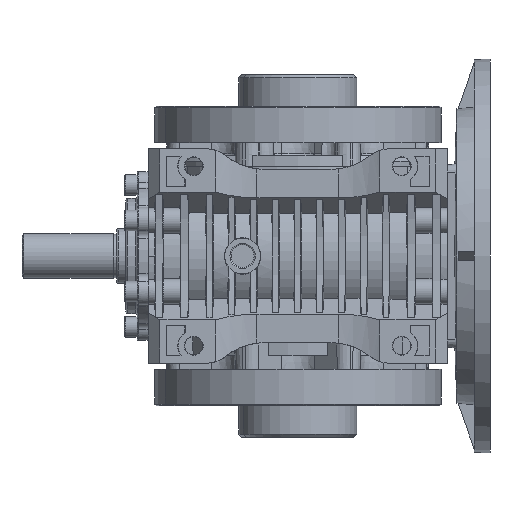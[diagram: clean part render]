
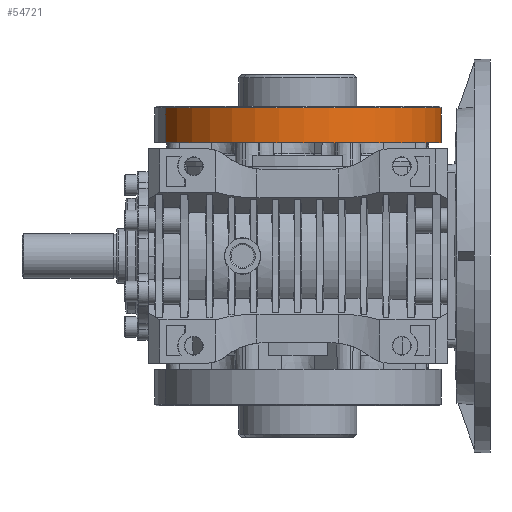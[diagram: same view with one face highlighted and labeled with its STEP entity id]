
A CAD part, front view. The second image highlights one B-rep face of the part: STEP entity #54721.
In plain terms, the highlighted cylindrical face has radius 91 mm (diameter 182 mm), a partial arc.
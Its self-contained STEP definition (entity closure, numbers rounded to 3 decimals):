
#792 = CARTESIAN_POINT ( 'NONE',  ( 84.073, 34.824, 72. ) ) ;
#3786 = CARTESIAN_POINT ( 'NONE',  ( -84.073, -34.824, 94. ) ) ;
#10967 = EDGE_CURVE ( 'NONE', #12306, #61198, #73562, .T. ) ;
#11295 = VECTOR ( 'NONE', #81882, 1000. ) ;
#12306 = VERTEX_POINT ( 'NONE', #99461 ) ;
#12748 = VECTOR ( 'NONE', #61504, 1000. ) ;
#16022 = CARTESIAN_POINT ( 'NONE',  ( 0., 0., 94. ) ) ;
#20586 = VERTEX_POINT ( 'NONE', #50229 ) ;
#22683 = AXIS2_PLACEMENT_3D ( 'NONE', #27985, #58640, #96871 ) ;
#27985 = CARTESIAN_POINT ( 'NONE',  ( 0., 0., 72. ) ) ;
#39284 = CYLINDRICAL_SURFACE ( 'NONE', #59530, 91. ) ;
#40122 = EDGE_LOOP ( 'NONE', ( #83838, #80472, #80977, #77805 ) ) ;
#50229 = CARTESIAN_POINT ( 'NONE',  ( -84.073, -34.824, 72. ) ) ;
#53875 = DIRECTION ( 'NONE',  ( -0.924, -0.383, 0. ) ) ;
#54209 = DIRECTION ( 'NONE',  ( 0., 0., -1. ) ) ;
#54721 = ADVANCED_FACE ( 'NONE', ( #98167 ), #39284, .T. ) ;
#56431 = CIRCLE ( 'NONE', #22683, 91. ) ;
#58640 = DIRECTION ( 'NONE',  ( 0., 0., -1. ) ) ;
#59530 = AXIS2_PLACEMENT_3D ( 'NONE', #84557, #99134, #53875 ) ;
#60558 = LINE ( 'NONE', #792, #11295 ) ;
#61198 = VERTEX_POINT ( 'NONE', #3786 ) ;
#61504 = DIRECTION ( 'NONE',  ( 0., 0., -1. ) ) ;
#62610 = EDGE_CURVE ( 'NONE', #61198, #20586, #77610, .T. ) ;
#70274 = DIRECTION ( 'NONE',  ( -0.924, -0.383, 0. ) ) ;
#71195 = VERTEX_POINT ( 'NONE', #99303 ) ;
#73562 = CIRCLE ( 'NONE', #99285, 91. ) ;
#77610 = LINE ( 'NONE', #99232, #12748 ) ;
#77805 = ORIENTED_EDGE ( 'NONE', *, *, #94092, .F. ) ;
#80472 = ORIENTED_EDGE ( 'NONE', *, *, #10967, .T. ) ;
#80977 = ORIENTED_EDGE ( 'NONE', *, *, #62610, .T. ) ;
#81882 = DIRECTION ( 'NONE',  ( 0., 0., -1. ) ) ;
#83838 = ORIENTED_EDGE ( 'NONE', *, *, #85601, .F. ) ;
#84557 = CARTESIAN_POINT ( 'NONE',  ( 0., 0., 72. ) ) ;
#85601 = EDGE_CURVE ( 'NONE', #12306, #71195, #60558, .T. ) ;
#94092 = EDGE_CURVE ( 'NONE', #71195, #20586, #56431, .T. ) ;
#96871 = DIRECTION ( 'NONE',  ( -0.924, -0.383, 0. ) ) ;
#98167 = FACE_OUTER_BOUND ( 'NONE', #40122, .T. ) ;
#99134 = DIRECTION ( 'NONE',  ( 0., 0., -1. ) ) ;
#99232 = CARTESIAN_POINT ( 'NONE',  ( -84.073, -34.824, 72. ) ) ;
#99285 = AXIS2_PLACEMENT_3D ( 'NONE', #16022, #54209, #70274 ) ;
#99303 = CARTESIAN_POINT ( 'NONE',  ( 84.073, 34.824, 72. ) ) ;
#99461 = CARTESIAN_POINT ( 'NONE',  ( 84.073, 34.824, 94. ) ) ;
